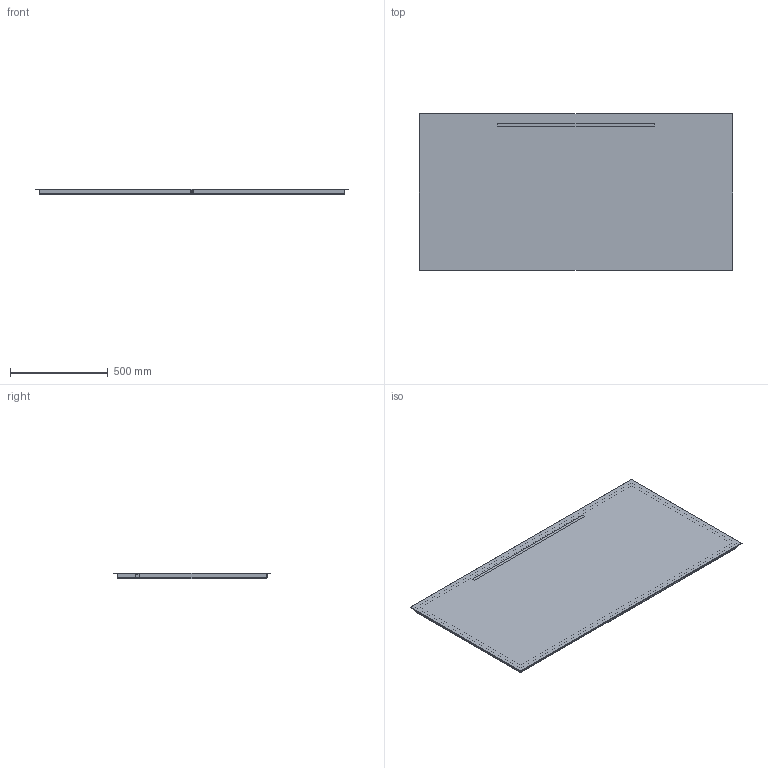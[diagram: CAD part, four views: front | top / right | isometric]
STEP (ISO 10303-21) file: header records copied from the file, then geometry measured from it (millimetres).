
FILE_DESCRIPTION (( 'STEP AP203' ), '1' );
FILE_NAME ('SPIEGEL MODEL 13 160CM.STEP', '2016-07-14T09:47:48', ( '' ), ( '' ), 'SwSTEP 2.0', 'SolidWorks 2016', '' );
FILE_SCHEMA (( 'CONFIG_CONTROL_DESIGN' ));
Length unit declared in the file: millimetre
Products named in the file (1): SPIEGEL MODEL 13 160CM
Bounding box: 1600 x 800 x 30 mm (x, y, z)
Volume: 6887024.6 mm3; surface area: 2830304.3 mm2
Topology: 2 solids, 2 shells, 69 faces, 148 edges, 90 vertices
Faces by surface type: plane 59, cylinder 8, torus 2
Entity records: 1893 total; most frequent: DIRECTION 308, CARTESIAN_POINT 308, ORIENTED_EDGE 296, EDGE_CURVE 148, LINE 128, VECTOR 128, VERTEX_POINT 90, AXIS2_PLACEMENT_3D 90
